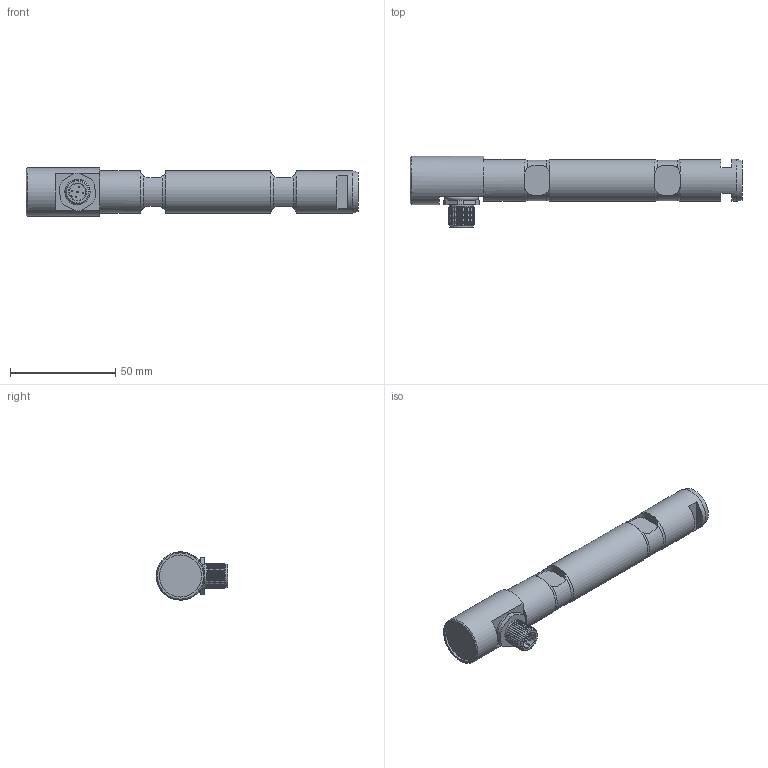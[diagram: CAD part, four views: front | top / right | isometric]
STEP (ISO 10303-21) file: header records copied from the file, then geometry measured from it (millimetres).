
FILE_DESCRIPTION(/* description */ ('Alibre Inc.'),/* implementation_level */ '2;1');
FILE_NAME(/* name */ 'export-27E9054D-1CA8-4D9D-89E4-0B0D0499AFCE',/* time_stamp */ '2023-11-21T09:25:52+01:00',/* author */ (''),/* organization */ (''),/* preprocessor_version */ 'ST-DEVELOPER v17',/* originating_system */ 'Alibre',/* authorisation */ '');
FILE_SCHEMA (('CONFIG_CONTROL_DESIGN'));
Length unit declared in the file: centimetre
Bounding box: 158 x 34 x 23 mm (x, y, z)
Surface area: 165362.6 mm2
Topology: 7 solids, 8 shells, 229 faces, 498 edges, 293 vertices
Faces by surface type: cylinder 77, plane 71, cone 71, torus 10
Full cylindrical faces by diameter (mm): 0.5 x10, 8 x2, 10 x1, 11 x1, 11.5 x1, 12 x21, 13 x2, 14.5 x1, 20 x4, 23 x1
Entity records: 5511 total; most frequent: CARTESIAN_POINT 1229, ORIENTED_EDGE 786, DIRECTION 704, EDGE_CURVE 387, EDGE_LOOP 345, FACE_BOUND 345, AXIS2_PLACEMENT_3D 329, VERTEX_POINT 278
